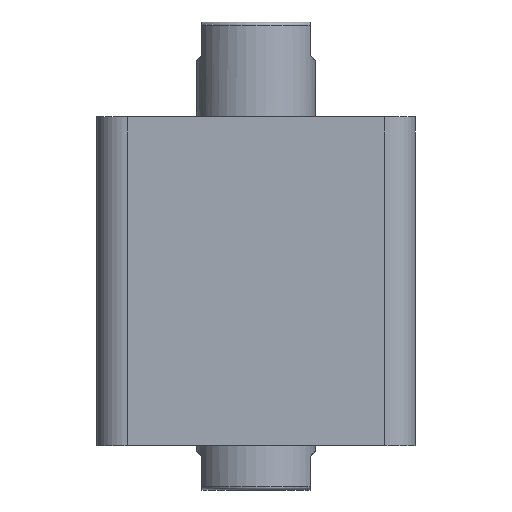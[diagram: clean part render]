
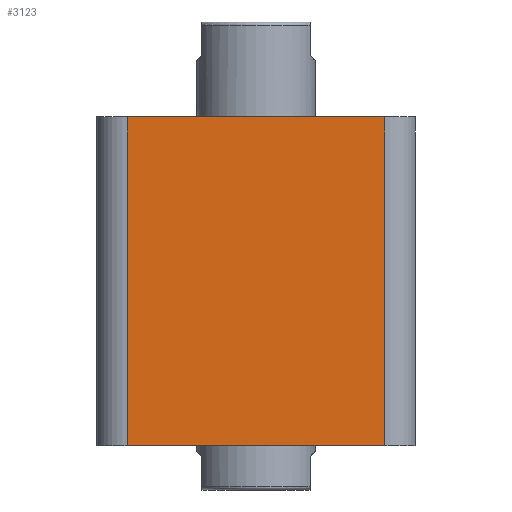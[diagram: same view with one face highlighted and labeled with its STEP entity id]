
A CAD part, front view. The second image highlights one B-rep face of the part: STEP entity #3123.
In plain terms, the highlighted planar face has unit normal (0, -1, 0).
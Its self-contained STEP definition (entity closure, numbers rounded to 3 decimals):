
#14 = EDGE_LOOP ( 'NONE', ( #2744, #2833, #2869, #2667 ) ) ;
#184 = CARTESIAN_POINT ( 'NONE',  ( -38., -47., 97. ) ) ;
#185 = DIRECTION ( 'NONE',  ( 0., 0., -1. ) ) ;
#542 = AXIS2_PLACEMENT_3D ( 'NONE', #963, #970, #971 ) ;
#698 = CARTESIAN_POINT ( 'NONE',  ( -38., -47., 97. ) ) ;
#963 = CARTESIAN_POINT ( 'NONE',  ( -47., -47., 97. ) ) ;
#969 = PLANE ( 'NONE',  #542 ) ;
#970 = DIRECTION ( 'NONE',  ( 0., 1., 0. ) ) ;
#971 = DIRECTION ( 'NONE',  ( 0., 0., 1. ) ) ;
#1043 = DIRECTION ( 'NONE',  ( 0., 0., 1. ) ) ;
#1047 = CARTESIAN_POINT ( 'NONE',  ( 38., -47., 97. ) ) ;
#1264 = LINE ( 'NONE', #2072, #1272 ) ;
#1272 = VECTOR ( 'NONE', #2081, 1000. ) ;
#1326 = LINE ( 'NONE', #2182, #1330 ) ;
#1330 = VECTOR ( 'NONE', #2187, 1000. ) ;
#1479 = FACE_OUTER_BOUND ( 'NONE', #14, .T. ) ;
#1515 = LINE ( 'NONE', #1047, #1521 ) ;
#1521 = VECTOR ( 'NONE', #1043, 1000. ) ;
#1637 = LINE ( 'NONE', #184, #1640 ) ;
#1640 = VECTOR ( 'NONE', #185, 1000. ) ;
#1725 = EDGE_CURVE ( 'NONE', #2902, #2871, #1264, .T. ) ;
#1759 = EDGE_CURVE ( 'NONE', #2872, #2870, #1326, .T. ) ;
#2072 = CARTESIAN_POINT ( 'NONE',  ( -47., -47., 97. ) ) ;
#2081 = DIRECTION ( 'NONE',  ( 1., 0., 0. ) ) ;
#2182 = CARTESIAN_POINT ( 'NONE',  ( -47., -47., 0. ) ) ;
#2187 = DIRECTION ( 'NONE',  ( 1., 0., 0. ) ) ;
#2407 = CARTESIAN_POINT ( 'NONE',  ( 38., -47., 97. ) ) ;
#2411 = CARTESIAN_POINT ( 'NONE',  ( 38., -47., 0. ) ) ;
#2412 = CARTESIAN_POINT ( 'NONE',  ( -38., -47., 0. ) ) ;
#2667 = ORIENTED_EDGE ( 'NONE', *, *, #3168, .T. ) ;
#2744 = ORIENTED_EDGE ( 'NONE', *, *, #1725, .F. ) ;
#2833 = ORIENTED_EDGE ( 'NONE', *, *, #3253, .T. ) ;
#2869 = ORIENTED_EDGE ( 'NONE', *, *, #1759, .T. ) ;
#2870 = VERTEX_POINT ( 'NONE', #2411 ) ;
#2871 = VERTEX_POINT ( 'NONE', #2407 ) ;
#2872 = VERTEX_POINT ( 'NONE', #2412 ) ;
#2902 = VERTEX_POINT ( 'NONE', #698 ) ;
#3123 = ADVANCED_FACE ( 'NONE', ( #1479 ), #969, .F. ) ;
#3168 = EDGE_CURVE ( 'NONE', #2870, #2871, #1515, .T. ) ;
#3253 = EDGE_CURVE ( 'NONE', #2902, #2872, #1637, .T. ) ;
